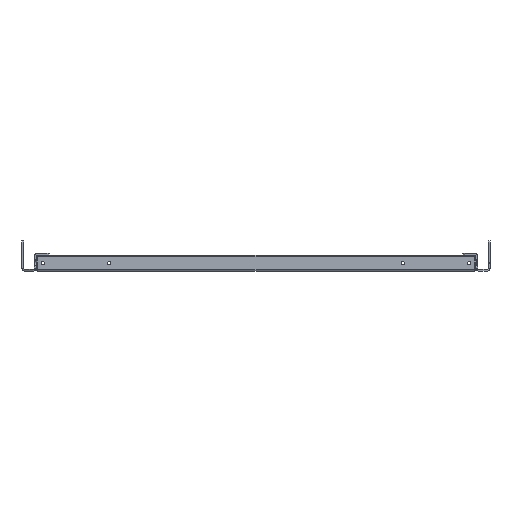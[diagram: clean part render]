
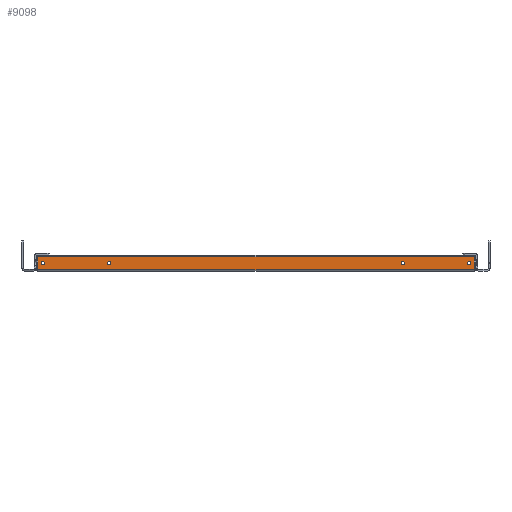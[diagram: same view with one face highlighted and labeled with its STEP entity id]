
A CAD part, left-side view. The second image highlights one B-rep face of the part: STEP entity #9098.
In plain terms, the highlighted planar face has unit normal (-1, 0, 0).
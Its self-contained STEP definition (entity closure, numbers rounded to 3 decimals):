
#192 = VERTEX_POINT ( 'NONE', #8817 ) ;
#246 = DIRECTION ( 'NONE',  ( -1., 0., 0. ) ) ;
#289 = CARTESIAN_POINT ( 'NONE',  ( -325., -266.5, 10. ) ) ;
#463 = ORIENTED_EDGE ( 'NONE', *, *, #6169, .T. ) ;
#550 = ORIENTED_EDGE ( 'NONE', *, *, #764, .F. ) ;
#764 = EDGE_CURVE ( 'NONE', #3102, #9225, #6984, .T. ) ;
#949 = EDGE_CURVE ( 'NONE', #7001, #3073, #8973, .T. ) ;
#1117 = EDGE_CURVE ( 'NONE', #192, #8244, #9784, .T. ) ;
#1132 = CARTESIAN_POINT ( 'NONE',  ( -325., -183.5, 10. ) ) ;
#1313 = DIRECTION ( 'NONE',  ( 0., 0., 1. ) ) ;
#1656 = VERTEX_POINT ( 'NONE', #4356 ) ;
#1684 = AXIS2_PLACEMENT_3D ( 'NONE', #5929, #4857, #6873 ) ;
#1736 = CIRCLE ( 'NONE', #4982, 2. ) ;
#1737 = DIRECTION ( 'NONE',  ( 0., 1., 0. ) ) ;
#1889 = VECTOR ( 'NONE', #1737, 1000. ) ;
#2209 = VERTEX_POINT ( 'NONE', #9140 ) ;
#2231 = CARTESIAN_POINT ( 'NONE',  ( -325., -273., 18. ) ) ;
#2435 = CIRCLE ( 'NONE', #6988, 2. ) ;
#2473 = EDGE_LOOP ( 'NONE', ( #463, #8784, #2979, #4385 ) ) ;
#2492 = DIRECTION ( 'NONE',  ( 0., 0., 1. ) ) ;
#2678 = FACE_BOUND ( 'NONE', #6183, .T. ) ;
#2683 = CARTESIAN_POINT ( 'NONE',  ( -325., 183.5, 10. ) ) ;
#2731 = CARTESIAN_POINT ( 'NONE',  ( -325., 275., 18. ) ) ;
#2747 = VECTOR ( 'NONE', #7099, 1000. ) ;
#2826 = FACE_OUTER_BOUND ( 'NONE', #2473, .T. ) ;
#2973 = CARTESIAN_POINT ( 'NONE',  ( -325., -273., 2. ) ) ;
#2979 = ORIENTED_EDGE ( 'NONE', *, *, #10691, .T. ) ;
#3073 = VERTEX_POINT ( 'NONE', #3628 ) ;
#3102 = VERTEX_POINT ( 'NONE', #9604 ) ;
#3129 = FACE_BOUND ( 'NONE', #3933, .T. ) ;
#3418 = ORIENTED_EDGE ( 'NONE', *, *, #949, .T. ) ;
#3628 = CARTESIAN_POINT ( 'NONE',  ( -325., -183.5, 8. ) ) ;
#3680 = ORIENTED_EDGE ( 'NONE', *, *, #10560, .T. ) ;
#3933 = EDGE_LOOP ( 'NONE', ( #3418, #4491 ) ) ;
#4007 = VERTEX_POINT ( 'NONE', #4943 ) ;
#4308 = EDGE_CURVE ( 'NONE', #7832, #9842, #7556, .T. ) ;
#4356 = CARTESIAN_POINT ( 'NONE',  ( -325., -266.5, 12. ) ) ;
#4357 = AXIS2_PLACEMENT_3D ( 'NONE', #12492, #10373, #2492 ) ;
#4385 = ORIENTED_EDGE ( 'NONE', *, *, #1117, .T. ) ;
#4463 = CARTESIAN_POINT ( 'NONE',  ( -325., 273., 20. ) ) ;
#4491 = ORIENTED_EDGE ( 'NONE', *, *, #5400, .T. ) ;
#4733 = CARTESIAN_POINT ( 'NONE',  ( -325., -266.5, 8. ) ) ;
#4857 = DIRECTION ( 'NONE',  ( -1., 0., 0. ) ) ;
#4943 = CARTESIAN_POINT ( 'NONE',  ( -325., 183.5, 8. ) ) ;
#4954 = CIRCLE ( 'NONE', #7275, 2. ) ;
#4982 = AXIS2_PLACEMENT_3D ( 'NONE', #2683, #9557, #7631 ) ;
#5013 = ORIENTED_EDGE ( 'NONE', *, *, #6739, .T. ) ;
#5400 = EDGE_CURVE ( 'NONE', #3073, #7001, #9819, .T. ) ;
#5515 = AXIS2_PLACEMENT_3D ( 'NONE', #11882, #246, #7084 ) ;
#5520 = DIRECTION ( 'NONE',  ( 1., 0., 0. ) ) ;
#5580 = DIRECTION ( 'NONE',  ( 1., 0., 0. ) ) ;
#5929 = CARTESIAN_POINT ( 'NONE',  ( -325., 266.5, 10. ) ) ;
#6016 = DIRECTION ( 'NONE',  ( 0., 0., 1. ) ) ;
#6043 = AXIS2_PLACEMENT_3D ( 'NONE', #6622, #5580, #11394 ) ;
#6132 = CARTESIAN_POINT ( 'NONE',  ( -325., -266.5, 10. ) ) ;
#6169 = EDGE_CURVE ( 'NONE', #8244, #7832, #8280, .T. ) ;
#6183 = EDGE_LOOP ( 'NONE', ( #5013, #3680 ) ) ;
#6622 = CARTESIAN_POINT ( 'NONE',  ( -325., -275., 20. ) ) ;
#6725 = AXIS2_PLACEMENT_3D ( 'NONE', #9475, #5520, #7514 ) ;
#6739 = EDGE_CURVE ( 'NONE', #1656, #12387, #2435, .T. ) ;
#6873 = DIRECTION ( 'NONE',  ( 0., 0., 1. ) ) ;
#6984 = CIRCLE ( 'NONE', #1684, 2. ) ;
#6988 = AXIS2_PLACEMENT_3D ( 'NONE', #6132, #10878, #6016 ) ;
#7001 = VERTEX_POINT ( 'NONE', #8570 ) ;
#7084 = DIRECTION ( 'NONE',  ( 0., 0., 1. ) ) ;
#7099 = DIRECTION ( 'NONE',  ( 0., 0., 1. ) ) ;
#7177 = DIRECTION ( 'NONE',  ( 1., 0., 0. ) ) ;
#7275 = AXIS2_PLACEMENT_3D ( 'NONE', #289, #7177, #1313 ) ;
#7451 = FACE_BOUND ( 'NONE', #10582, .T. ) ;
#7514 = DIRECTION ( 'NONE',  ( 0., 0., 1. ) ) ;
#7556 = LINE ( 'NONE', #2731, #1889 ) ;
#7631 = DIRECTION ( 'NONE',  ( 0., 0., 1. ) ) ;
#7704 = EDGE_CURVE ( 'NONE', #9225, #3102, #10210, .T. ) ;
#7832 = VERTEX_POINT ( 'NONE', #2231 ) ;
#8244 = VERTEX_POINT ( 'NONE', #2973 ) ;
#8280 = LINE ( 'NONE', #8891, #2747 ) ;
#8570 = CARTESIAN_POINT ( 'NONE',  ( -325., -183.5, 12. ) ) ;
#8784 = ORIENTED_EDGE ( 'NONE', *, *, #4308, .T. ) ;
#8817 = CARTESIAN_POINT ( 'NONE',  ( -325., 273., 2. ) ) ;
#8891 = CARTESIAN_POINT ( 'NONE',  ( -325., -273., 20. ) ) ;
#8938 = LINE ( 'NONE', #4463, #9861 ) ;
#8973 = CIRCLE ( 'NONE', #10621, 2. ) ;
#9051 = ORIENTED_EDGE ( 'NONE', *, *, #12681, .F. ) ;
#9098 = ADVANCED_FACE ( 'NONE', ( #7451, #12033, #2826, #2678, #3129 ), #11356, .F. ) ;
#9140 = CARTESIAN_POINT ( 'NONE',  ( -325., 183.5, 12. ) ) ;
#9175 = DIRECTION ( 'NONE',  ( 0., 0., 1. ) ) ;
#9197 = CIRCLE ( 'NONE', #4357, 2. ) ;
#9225 = VERTEX_POINT ( 'NONE', #12694 ) ;
#9475 = CARTESIAN_POINT ( 'NONE',  ( -325., -183.5, 10. ) ) ;
#9489 = ORIENTED_EDGE ( 'NONE', *, *, #11025, .F. ) ;
#9557 = DIRECTION ( 'NONE',  ( -1., 0., 0. ) ) ;
#9604 = CARTESIAN_POINT ( 'NONE',  ( -325., 266.5, 8. ) ) ;
#9784 = LINE ( 'NONE', #12071, #10086 ) ;
#9819 = CIRCLE ( 'NONE', #6725, 2. ) ;
#9842 = VERTEX_POINT ( 'NONE', #10820 ) ;
#9861 = VECTOR ( 'NONE', #12223, 1000. ) ;
#10066 = DIRECTION ( 'NONE',  ( 0., -1., 0. ) ) ;
#10086 = VECTOR ( 'NONE', #10066, 1000. ) ;
#10163 = EDGE_LOOP ( 'NONE', ( #12501, #550 ) ) ;
#10210 = CIRCLE ( 'NONE', #5515, 2. ) ;
#10373 = DIRECTION ( 'NONE',  ( -1., 0., 0. ) ) ;
#10560 = EDGE_CURVE ( 'NONE', #12387, #1656, #4954, .T. ) ;
#10582 = EDGE_LOOP ( 'NONE', ( #9489, #9051 ) ) ;
#10621 = AXIS2_PLACEMENT_3D ( 'NONE', #1132, #11916, #9175 ) ;
#10691 = EDGE_CURVE ( 'NONE', #9842, #192, #8938, .T. ) ;
#10820 = CARTESIAN_POINT ( 'NONE',  ( -325., 273., 18. ) ) ;
#10878 = DIRECTION ( 'NONE',  ( 1., 0., 0. ) ) ;
#11025 = EDGE_CURVE ( 'NONE', #2209, #4007, #1736, .T. ) ;
#11356 = PLANE ( 'NONE',  #6043 ) ;
#11394 = DIRECTION ( 'NONE',  ( 0., 0., -1. ) ) ;
#11882 = CARTESIAN_POINT ( 'NONE',  ( -325., 266.5, 10. ) ) ;
#11916 = DIRECTION ( 'NONE',  ( 1., 0., 0. ) ) ;
#12033 = FACE_BOUND ( 'NONE', #10163, .T. ) ;
#12071 = CARTESIAN_POINT ( 'NONE',  ( -325., -275., 2. ) ) ;
#12223 = DIRECTION ( 'NONE',  ( 0., 0., -1. ) ) ;
#12387 = VERTEX_POINT ( 'NONE', #4733 ) ;
#12492 = CARTESIAN_POINT ( 'NONE',  ( -325., 183.5, 10. ) ) ;
#12501 = ORIENTED_EDGE ( 'NONE', *, *, #7704, .F. ) ;
#12681 = EDGE_CURVE ( 'NONE', #4007, #2209, #9197, .T. ) ;
#12694 = CARTESIAN_POINT ( 'NONE',  ( -325., 266.5, 12. ) ) ;
